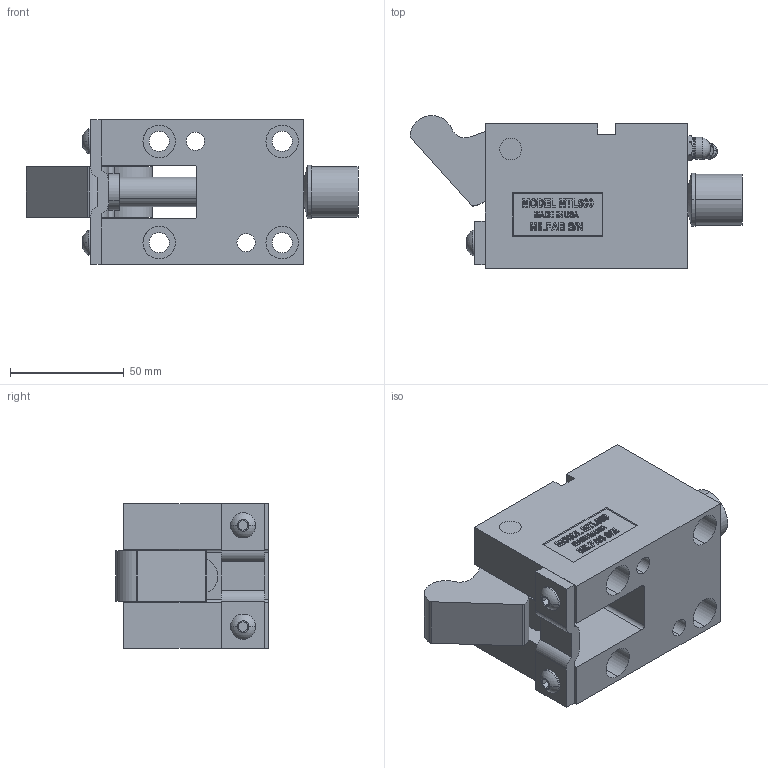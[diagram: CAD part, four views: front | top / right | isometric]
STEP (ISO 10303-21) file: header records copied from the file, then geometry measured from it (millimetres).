
FILE_DESCRIPTION (( 'STEP AP214' ), '1' );
FILE_NAME ('MTL50045-O.STEP', '2014-01-08T19:25:12', ( 'user' ), ( '' ), 'SwSTEP 2.0', 'SolidWorks 2009', '' );
FILE_SCHEMA (( 'AUTOMOTIVE_DESIGN' ));
Length unit declared in the file: inch
Products named in the file (11): MTL500-BODY; MTL50045-O; ML500-PUNCH; 500 PIVOT PIN; 500-I-STRAP; 500-OFFSET TRIGGER; GREASE ZERK; 500-WASHER; 500 STRIPPER OPEN; M-I-500-POINT; 1-4 SCREW
Assembly tree (11 placements, depth 2):
  MTL50045-O
    M-I-500-POINT
    500 STRIPPER OPEN
    1-4 SCREW  x2
    GREASE ZERK
    500-OFFSET TRIGGER
    500 PIVOT PIN
    500-I-STRAP
    ML500-PUNCH
    MTL500-BODY
    500-WASHER
Bounding box: 145.67 x 67.08 x 63.5 mm (x, y, z)
Volume: 304133.5 mm3; surface area: 71429.2 mm2
Topology: 11 solids, 11 shells, 589 faces, 1514 edges, 994 vertices
Faces by surface type: plane 349, cylinder 100, bspline 86, cone 30, torus 20, sphere 4
Entity records: 23071 total; most frequent: CARTESIAN_POINT 9168, ORIENTED_EDGE 2940, DIRECTION 2442, EDGE_CURVE 1470, LINE 980, VECTOR 980, VERTEX_POINT 968, AXIS2_PLACEMENT_3D 731
